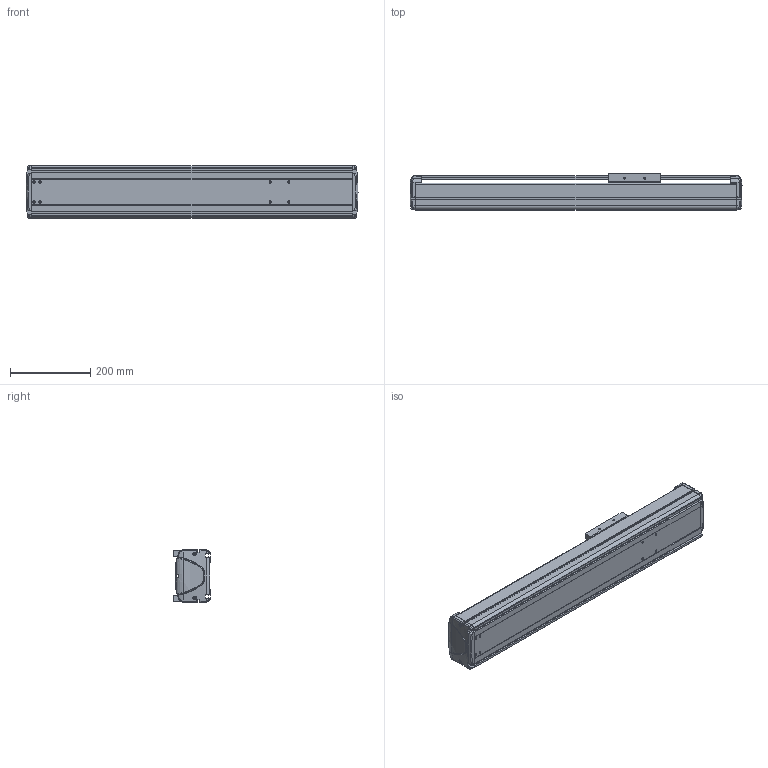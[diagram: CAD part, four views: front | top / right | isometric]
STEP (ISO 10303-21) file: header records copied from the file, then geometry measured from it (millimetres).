
FILE_DESCRIPTION((''),'2;1');
FILE_NAME('BE30E-ST-M_B-45_IGS_PRT','2017-06-17T',(' '),(''),'PRO/ENGINEER BY PARAMETRIC TECHNOLOGY CORPORATION, 2015030','PRO/ENGINEER BY PARAMETRIC TECHNOLOGY CORPORATION, 2015030','');
FILE_SCHEMA(('CONFIG_CONTROL_DESIGN'));
Length unit declared in the file: millimetre
Products named in the file (1): BE30E-ST-M_B-45_IGS_PRT
Bounding box: 825 x 89.8 x 130 mm (x, y, z)
Volume: 2548760.1 mm3; surface area: 1021434.3 mm2
Topology: 3 solids, 77 shells, 1305 faces, 3483 edges, 2277 vertices
Faces by surface type: plane 578, cylinder 567, bspline 58, torus 46, cone 32, sphere 24
Entity records: 43766 total; most frequent: CARTESIAN_POINT 11134, DIRECTION 6714, ORIENTED_EDGE 6637, EDGE_CURVE 3463, AXIS2_PLACEMENT_3D 2411, VERTEX_POINT 2277, VECTOR 1892, LINE 1892
